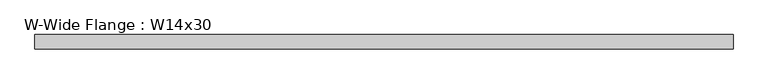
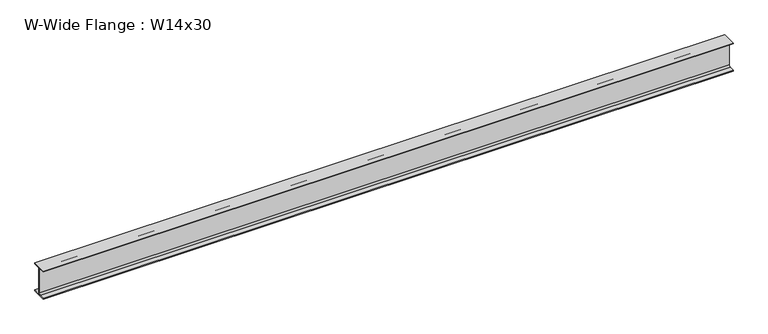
"""IFC4 building model written with IfcOpenShell, lengths in millimetres: beam geometry, W-Wide Flange : W14x30."""

from ifc_helpers import new_model, si_unit, point, frame, frame_2d, origin, place, context, project, spatial, polyline, circle_curve, trimmed, segment, composite_curve, outline, extrude, source, transform, mapped, element, save


def w_wide_flange_w14x30_5dc0e07a(model_context):
    return source(origin(), model_context, "Body", "SweptSolid", [
        extrude(outline(composite_curve([segment(polyline([(85.471, -165.481), (85.471, -175.26), (-85.471, -175.26), (-85.471, -165.481), (-22.225, -165.481)]), True, "CONTINUOUS"), segment(trimmed(circle_curve(frame_2d((-22.225, -146.685)), 18.796), [point((-22.225, -165.481))], [point((-3.429, -146.685))], True, "CARTESIAN"), True, "CONTINUOUS"), segment(polyline([(-3.429, -146.685), (-3.429, 146.685)]), True, "CONTINUOUS"), segment(trimmed(circle_curve(frame_2d((-22.225, 146.685)), 18.796), [point((-3.429, 146.685))], [point((-22.225, 165.481))], True, "CARTESIAN"), True, "CONTINUOUS"), segment(polyline([(-22.225, 165.481), (-85.471, 165.481), (-85.471, 175.26), (85.471, 175.26), (85.471, 165.481), (22.225, 165.481)]), True, "CONTINUOUS"), segment(trimmed(circle_curve(frame_2d((22.225, 146.685)), 18.796), [point((22.225, 165.481))], [point((3.429, 146.685))], True, "CARTESIAN"), True, "CONTINUOUS"), segment(polyline([(3.429, 146.685), (3.429, -146.685)]), True, "CONTINUOUS"), segment(trimmed(circle_curve(frame_2d((22.225, -146.685)), 18.796), [point((3.429, -146.685))], [point((22.225, -165.481))], True, "CARTESIAN"), True, "CONTINUOUS"), segment(polyline([(22.225, -165.481), (85.471, -165.481)]), True, "CONTINUOUS")], self_intersect=False)), frame((-4146.55, 0.0, 0.0), z_axis=(1.0, 0.0, 0.0), x_axis=(0.0, 1.0, 0.0)), (0.0, 0.0, 1.0), 8197.85),
    ])


if __name__ == "__main__":
    model = new_model("IFC4")
    model_context = context("Model", 3, world=origin())
    ifc_project = project(units=[si_unit("LENGTHUNIT", "METRE", prefix="MILLI")], contexts=[model_context])
    site = spatial("IfcSite", under=ifc_project)
    building = spatial("IfcBuilding", under=site)
    placement = place(None, origin())
    w_wide_flange_w14x30_shape = w_wide_flange_w14x30_5dc0e07a(model_context)
    element("IfcBeam", 1, ObjectType="W-Wide Flange : W14x30", at=placement, inside=building, context=model_context, shape_type="MappedRepresentation", body=[
        mapped(w_wide_flange_w14x30_shape, transform((0.0, 0.0, 0.0), x_axis=(1.0, 0.0, 0.0), y_axis=(0.0, 1.0, 0.0), z_axis=(0.0, 0.0, 1.0))),
    ])
    save(model, "model.ifc")
